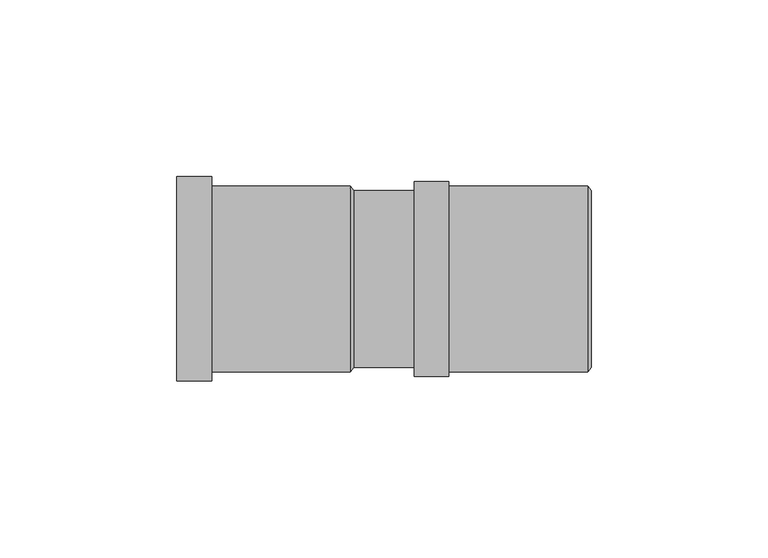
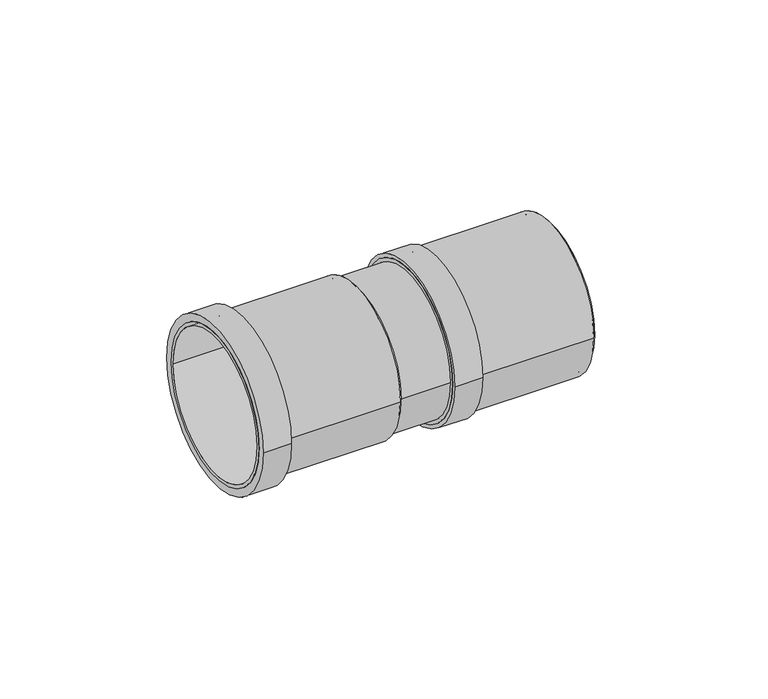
"""IFC4 building model written with IfcOpenShell, lengths in millimetres: pipe fitting geometry, Superdrain HTAM-Single socket : Superdrain HTAM-Single socket."""

from ifc_helpers import new_model, si_unit, point, frame, origin, origin_2d, place, context, project, spatial, polyline, circle_curve, trimmed, segment, composite_curve, outline, extrude, source, transform, mapped, element, save
from ifc_brep_helpers import plane_surface, revolved_surface, advanced_brep


def pipe_fitting_9ea7e918(model_context):
    return source(origin(), model_context, "Body", "SolidModel", [
        extrude(outline(composite_curve([segment(trimmed(circle_curve(origin_2d(), 26.25), [point((-26.25, 0.0))], [point((26.25, 0.0))], False, "CARTESIAN"), True, "CONTINUOUS"), segment(trimmed(circle_curve(origin_2d(), 26.25), [point((26.25, 0.0))], [point((-26.25, 0.0))], False, "CARTESIAN"), True, "CONTINUOUS")], self_intersect=False), holes=[composite_curve([segment(trimmed(circle_curve(origin_2d(), 25.0), [point((-25.0, 0.0))], [point((25.0, 0.0))], True, "CARTESIAN"), True, "CONTINUOUS"), segment(trimmed(circle_curve(origin_2d(), 25.0), [point((25.0, 0.0))], [point((-25.0, 0.0))], True, "CARTESIAN"), True, "CONTINUOUS")], self_intersect=False)]), frame((7.0, 0.0, 0.0), z_axis=(1.0, 0.0, 0.0), x_axis=(0.0, 1.0, 0.0)), (0.0, 0.0, 1.0), 49.0),
        extrude(outline(composite_curve([segment(trimmed(circle_curve(origin_2d(), 27.5625), [point((-27.5625, 0.0))], [point((27.5625, 0.0))], False, "CARTESIAN"), True, "CONTINUOUS"), segment(trimmed(circle_curve(origin_2d(), 27.5625), [point((27.5625, 0.0))], [point((-27.5625, 0.0))], False, "CARTESIAN"), True, "CONTINUOUS")], self_intersect=False), holes=[composite_curve([segment(trimmed(circle_curve(origin_2d(), 25.0), [point((-25.0, 0.0))], [point((25.0, 0.0))], True, "CARTESIAN"), True, "CONTINUOUS"), segment(trimmed(circle_curve(origin_2d(), 25.0), [point((25.0, 0.0))], [point((-25.0, 0.0))], True, "CARTESIAN"), True, "CONTINUOUS")], self_intersect=False)]), frame((7.0, 0.0, 0.0), z_axis=(1.0, 0.0, 0.0), x_axis=(0.0, 1.0, 0.0)), (0.0, 0.0, 1.0), 9.8),
        advanced_brep(
        [(57.0, -25.0, 0.0), (57.0, 25.0, 0.0), (56.0, -26.25, 0.0), (56.0, 26.25, 0.0)],
        [
            (0, 1, circle_curve(frame((57.0, 0.0, 0.0), z_axis=(1.0, 0.0, 0.0), x_axis=(0.0, -1.0, 0.0)), 25.0)),
            (1, 0, circle_curve(frame((57.0, 0.0, 0.0), z_axis=(1.0, 0.0, 0.0), x_axis=(0.0, 1.0, 0.0)), 25.0)),
            (2, 3, circle_curve(frame((56.0, 0.0, 0.0), z_axis=(-1.0, 0.0, 0.0), x_axis=(0.0, 1.0, 0.0)), 26.25)),
            (3, 2, circle_curve(frame((56.0, 0.0, 0.0), z_axis=(-1.0, 0.0, 0.0), x_axis=(0.0, -1.0, 0.0)), 26.25)),
            (3, 1),
            (0, 2),
        ],
        [
            plane_surface(frame((57.0, 0.0, 0.0), z_axis=(1.0, 0.0, 0.0), x_axis=(0.0, 0.0, -1.0))),
            plane_surface(frame((56.0, 0.0, 0.0), z_axis=(-1.0, 0.0, 0.0), x_axis=(0.0, 0.0, -1.0))),
            revolved_surface(polyline([(57.0, -25.0, 0.0), (56.0, -26.25, 0.0)]), (77.0, 0.0, 0.0), (-1.0, 0.0, 0.0)),
            revolved_surface(polyline([(57.0, 25.0, 0.0), (56.0, 26.25, 0.0)]), (77.0, 0.0, 0.0), (-1.0, 0.0, 0.0)),
        ],
        [
            (0, [[1, 2]]),
            (1, [[3, 4]]),
            (2, [[-4, 5, -1, 6]]),
            (3, [[-3, -6, -2, -5]]),
        ],
    ),
        extrude(outline(composite_curve([segment(trimmed(circle_curve(origin_2d(), 26.25), [point((-26.25, 0.0))], [point((26.25, 0.0))], False, "CARTESIAN"), True, "CONTINUOUS"), segment(trimmed(circle_curve(origin_2d(), 26.25), [point((26.25, 0.0))], [point((-26.25, 0.0))], False, "CARTESIAN"), True, "CONTINUOUS")], self_intersect=False), holes=[composite_curve([segment(trimmed(circle_curve(origin_2d(), 25.0), [point((-25.0, 0.0))], [point((25.0, 0.0))], True, "CARTESIAN"), True, "CONTINUOUS"), segment(trimmed(circle_curve(origin_2d(), 25.0), [point((25.0, 0.0))], [point((-25.0, 0.0))], True, "CARTESIAN"), True, "CONTINUOUS")], self_intersect=False)]), frame((-60.0, 0.0, 0.0), z_axis=(1.0, 0.0, 0.0), x_axis=(0.0, 1.0, 0.0)), (0.0, 0.0, 1.0), 49.0),
        extrude(outline(composite_curve([segment(trimmed(circle_curve(origin_2d(), 28.875), [point((-28.875, 0.0))], [point((28.875, 0.0))], False, "CARTESIAN"), True, "CONTINUOUS"), segment(trimmed(circle_curve(origin_2d(), 28.875), [point((28.875, 0.0))], [point((-28.875, 0.0))], False, "CARTESIAN"), True, "CONTINUOUS")], self_intersect=False), holes=[composite_curve([segment(trimmed(circle_curve(origin_2d(), 25.0), [point((-25.0, 0.0))], [point((25.0, 0.0))], True, "CARTESIAN"), True, "CONTINUOUS"), segment(trimmed(circle_curve(origin_2d(), 25.0), [point((25.0, 0.0))], [point((-25.0, 0.0))], True, "CARTESIAN"), True, "CONTINUOUS")], self_intersect=False)]), frame((-60.0, 0.0, 0.0), z_axis=(1.0, 0.0, 0.0), x_axis=(0.0, 1.0, 0.0)), (0.0, 0.0, 1.0), 9.8),
        advanced_brep(
        [(-10.0, -25.0, 0.0), (-10.0, 25.0, 0.0), (-11.0, -26.25, 0.0), (-11.0, 26.25, 0.0)],
        [
            (0, 1, circle_curve(frame((-10.0, 0.0, 0.0), z_axis=(1.0, 0.0, 0.0), x_axis=(0.0, -1.0, 0.0)), 25.0)),
            (1, 0, circle_curve(frame((-10.0, 0.0, 0.0), z_axis=(1.0, 0.0, 0.0), x_axis=(0.0, 1.0, 0.0)), 25.0)),
            (2, 3, circle_curve(frame((-11.0, 0.0, 0.0), z_axis=(-1.0, 0.0, 0.0), x_axis=(0.0, 1.0, 0.0)), 26.25)),
            (3, 2, circle_curve(frame((-11.0, 0.0, 0.0), z_axis=(-1.0, 0.0, 0.0), x_axis=(0.0, -1.0, 0.0)), 26.25)),
            (3, 1),
            (0, 2),
        ],
        [
            plane_surface(frame((-10.0, 0.0, 0.0), z_axis=(1.0, 0.0, 0.0), x_axis=(0.0, 0.0, -1.0))),
            plane_surface(frame((-11.0, 0.0, 0.0), z_axis=(-1.0, 0.0, 0.0), x_axis=(0.0, 0.0, -1.0))),
            revolved_surface(polyline([(-10.0, -25.0, 0.0), (-11.0, -26.25, 0.0)]), (10.0, 0.0, 0.0), (-1.0, 0.0, 0.0)),
            revolved_surface(polyline([(-10.0, 25.0, 0.0), (-11.0, 26.25, 0.0)]), (10.0, 0.0, 0.0), (-1.0, 0.0, 0.0)),
        ],
        [
            (0, [[1, 2]]),
            (1, [[3, 4]]),
            (2, [[-4, 5, -1, 6]]),
            (3, [[-3, -6, -2, -5]]),
        ],
    ),
        extrude(outline(composite_curve([segment(trimmed(circle_curve(origin_2d(), 25.0), [point((-25.0, 0.0))], [point((25.0, 0.0))], False, "CARTESIAN"), True, "CONTINUOUS"), segment(trimmed(circle_curve(origin_2d(), 25.0), [point((25.0, 0.0))], [point((-25.0, 0.0))], False, "CARTESIAN"), True, "CONTINUOUS")], self_intersect=False)), frame((-11.0, 0.0, 0.0), z_axis=(1.0, 0.0, 0.0), x_axis=(0.0, 1.0, 0.0)), (0.0, 0.0, 1.0), 67.0),
    ])


if __name__ == "__main__":
    model = new_model("IFC4")
    model_context = context("Model", 3, world=origin())
    ifc_project = project(units=[si_unit("LENGTHUNIT", "METRE", prefix="MILLI")], contexts=[model_context])
    site = spatial("IfcSite", under=ifc_project)
    building = spatial("IfcBuilding", under=site)
    placement = place(None, origin())
    pipe_fitting_shape = pipe_fitting_9ea7e918(model_context)
    element("IfcPipeFitting", 1, ObjectType="Superdrain HTAM-Single socket : Superdrain HTAM-Single socket", at=placement, inside=building, context=model_context, shape_type="MappedRepresentation", body=[
        mapped(pipe_fitting_shape, transform((0.0, 0.0, 0.0), x_axis=(1.0, 0.0, 0.0), y_axis=(0.0, 1.0, 0.0), z_axis=(0.0, 0.0, 1.0))),
    ])
    save(model, "model.ifc")
